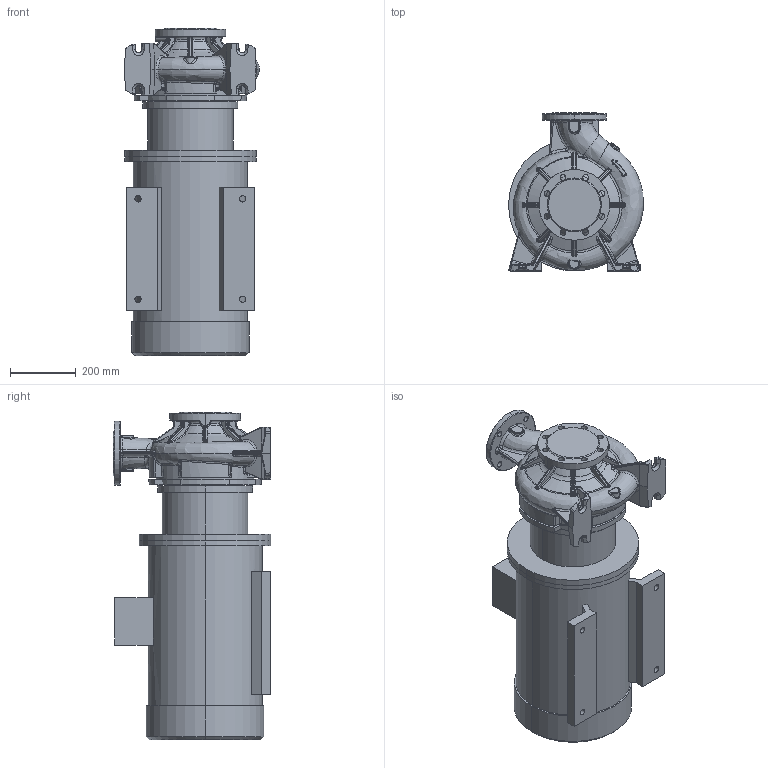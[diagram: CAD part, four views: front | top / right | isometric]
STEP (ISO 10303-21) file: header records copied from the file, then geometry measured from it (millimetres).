
FILE_DESCRIPTION (( 'STEP AP203' ), '1' );
FILE_NAME ('KRM 100-80-250-2-37.STEP', '2026-05-08T07:10:16', ( '' ), ( '' ), 'SwSTEP 2.0', 'SolidWorks 2016', '' );
FILE_SCHEMA (( 'CONFIG_CONTROL_DESIGN' ));
Length unit declared in the file: millimetre
Products named in the file (1): KRM 100-80-250-2-37
Bounding box: 409.92 x 480 x 995.8 mm (x, y, z)
Volume: 92615854.1 mm3; surface area: 2549459 mm2
Topology: 8 solids, 8 shells, 1191 faces, 2881 edges, 1678 vertices
Faces by surface type: bspline 481, cylinder 305, plane 193, torus 112, cone 61, sphere 39
Entity records: 73061 total; most frequent: CARTESIAN_POINT 49022, ORIENTED_EDGE 5678, DIRECTION 4250, EDGE_CURVE 2839, AXIS2_PLACEMENT_3D 1820, VERTEX_POINT 1678, EDGE_LOOP 1237, ADVANCED_FACE 1191
